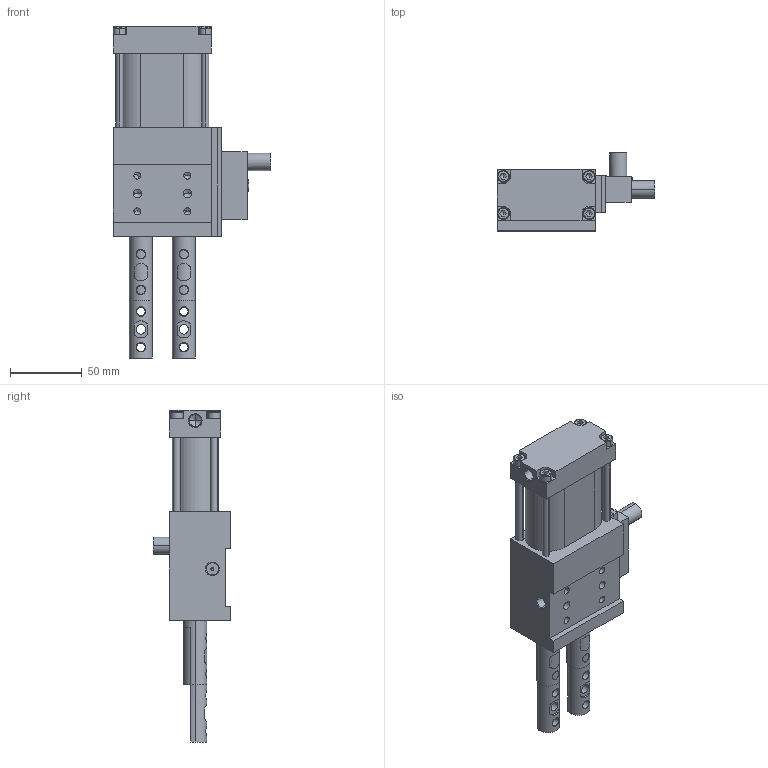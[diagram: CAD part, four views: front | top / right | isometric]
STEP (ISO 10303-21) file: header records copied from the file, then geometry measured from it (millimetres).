
FILE_DESCRIPTION(('CATIA V5 STEP Exchange'),'2;1');
FILE_NAME('C:\Users\huberm\Desktop\SZKD_40_A18_T12_TUENKERS.stp','2012-09-05T06:06:49+00:00',('none'),('none'),'CATIA Version 5 Release 19 SP 3 (IN-10)','CATIA V5 STEP AP203','none');
FILE_SCHEMA(('CONFIG_CONTROL_DESIGN'));
Length unit declared in the file: millimetre
Products named in the file (1): SZKD_40_A18_T12_TUENKERS
Bounding box: 110.1 x 54.5 x 232 mm (x, y, z)
Volume: 366877.5 mm3; surface area: 121198.2 mm2
Topology: 15 solids, 15 shells, 895 faces, 2593 edges, 1712 vertices
Faces by surface type: bspline 380, plane 290, cylinder 135, cone 72, torus 18
Entity records: 32012 total; most frequent: CARTESIAN_POINT 13003, ORIENTED_EDGE 5042, EDGE_CURVE 2521, DIRECTION 2243, VERTEX_POINT 1713, EDGE_LOOP 1028, AXIS2_PLACEMENT_3D 918, ADVANCED_FACE 895
